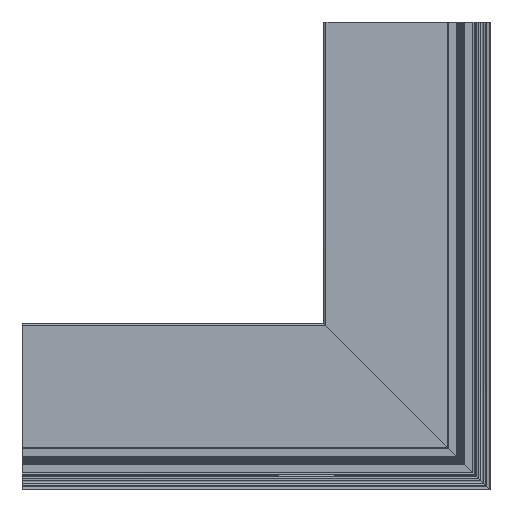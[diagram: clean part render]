
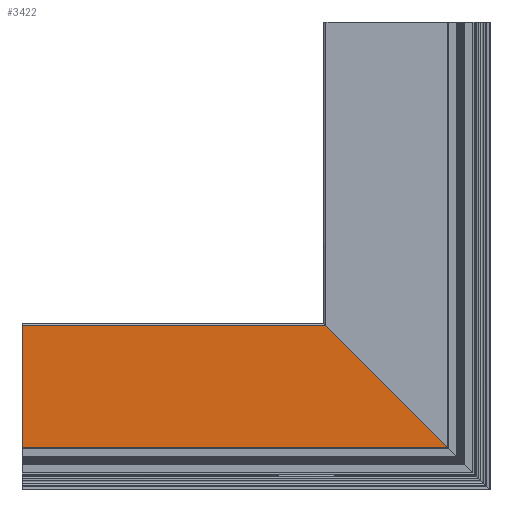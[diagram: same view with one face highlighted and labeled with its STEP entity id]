
A CAD part, front view. The second image highlights one B-rep face of the part: STEP entity #3422.
In plain terms, the highlighted planar face has unit normal (0, -1, 0).
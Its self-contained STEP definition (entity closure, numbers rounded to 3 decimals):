
#400 = DIRECTION ( 'NONE',  ( 0., -1., 0. ) ) ;
#460 = VERTEX_POINT ( 'NONE', #7469 ) ;
#486 = PLANE ( 'NONE',  #2001 ) ;
#758 = ORIENTED_EDGE ( 'NONE', *, *, #2129, .T. ) ;
#807 = DIRECTION ( 'NONE',  ( 1., 0., 0. ) ) ;
#841 = VECTOR ( 'NONE', #807, 1000. ) ;
#856 = LINE ( 'NONE', #3049, #841 ) ;
#988 = EDGE_CURVE ( 'NONE', #5430, #460, #2503, .T. ) ;
#1121 = CARTESIAN_POINT ( 'NONE',  ( -232.4, 3.06, -168.29 ) ) ;
#1914 = ORIENTED_EDGE ( 'NONE', *, *, #7618, .T. ) ;
#2001 = AXIS2_PLACEMENT_3D ( 'NONE', #3286, #400, #6090 ) ;
#2129 = EDGE_CURVE ( 'NONE', #8951, #460, #3397, .T. ) ;
#2183 = DIRECTION ( 'NONE',  ( 0., 0., -1. ) ) ;
#2223 = LINE ( 'NONE', #4432, #2307 ) ;
#2307 = VECTOR ( 'NONE', #2183, 1000. ) ;
#2503 = LINE ( 'NONE', #1121, #3737 ) ;
#2712 = CARTESIAN_POINT ( 'NONE',  ( -77.5, 3.06, -13.39 ) ) ;
#3049 = CARTESIAN_POINT ( 'NONE',  ( -80., 3.06, -320.69 ) ) ;
#3256 = CARTESIAN_POINT ( 'NONE',  ( 45.253, 3.06, -320.69 ) ) ;
#3286 = CARTESIAN_POINT ( 'NONE',  ( -80., 3.06, -320.69 ) ) ;
#3354 = EDGE_LOOP ( 'NONE', ( #8582, #1914, #5624, #758 ) ) ;
#3397 = LINE ( 'NONE', #6240, #5248 ) ;
#3422 = ADVANCED_FACE ( 'NONE', ( #3883 ), #486, .T. ) ;
#3737 = VECTOR ( 'NONE', #4832, 1000. ) ;
#3883 = FACE_OUTER_BOUND ( 'NONE', #3354, .T. ) ;
#4432 = CARTESIAN_POINT ( 'NONE',  ( -77.5, 3.06, -320.69 ) ) ;
#4832 = DIRECTION ( 'NONE',  ( 0.707, 0., 0.707 ) ) ;
#5248 = VECTOR ( 'NONE', #9055, 1000. ) ;
#5430 = VERTEX_POINT ( 'NONE', #2712 ) ;
#5552 = CARTESIAN_POINT ( 'NONE',  ( -77.5, 3.06, -320.69 ) ) ;
#5624 = ORIENTED_EDGE ( 'NONE', *, *, #7233, .T. ) ;
#6090 = DIRECTION ( 'NONE',  ( 0., 0., -1. ) ) ;
#6240 = CARTESIAN_POINT ( 'NONE',  ( 45.253, 3.06, 152.4 ) ) ;
#7233 = EDGE_CURVE ( 'NONE', #7919, #8951, #856, .T. ) ;
#7469 = CARTESIAN_POINT ( 'NONE',  ( 45.253, 3.06, 109.363 ) ) ;
#7618 = EDGE_CURVE ( 'NONE', #5430, #7919, #2223, .T. ) ;
#7919 = VERTEX_POINT ( 'NONE', #5552 ) ;
#8582 = ORIENTED_EDGE ( 'NONE', *, *, #988, .F. ) ;
#8951 = VERTEX_POINT ( 'NONE', #3256 ) ;
#9055 = DIRECTION ( 'NONE',  ( 0., 0., 1. ) ) ;
